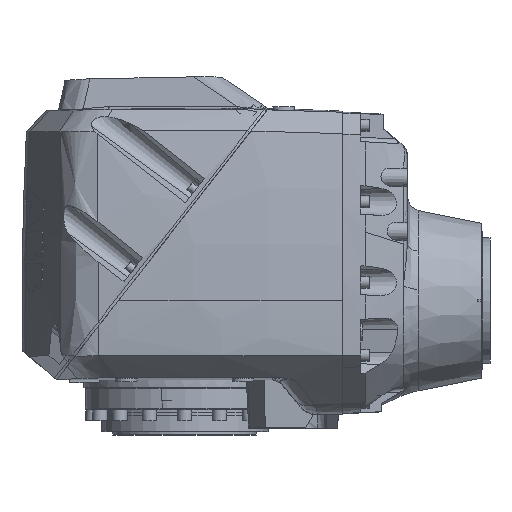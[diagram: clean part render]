
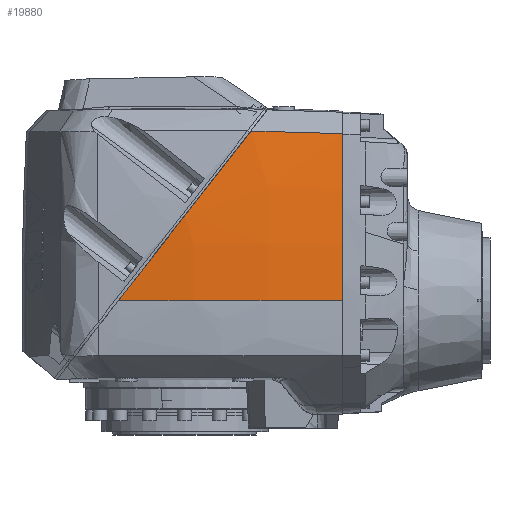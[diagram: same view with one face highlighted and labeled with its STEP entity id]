
A CAD part, top view. The second image highlights one B-rep face of the part: STEP entity #19880.
In plain terms, the highlighted toroidal (fillet/blend) face has major radius 300 mm and minor radius 1500 mm.
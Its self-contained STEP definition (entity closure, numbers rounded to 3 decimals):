
#389 = CARTESIAN_POINT ( 'NONE',  ( 101.397, 0., 1920.193 ) ) ;
#395 = CARTESIAN_POINT ( 'NONE',  ( 248.86, 188.744, 1905.221 ) ) ;
#457 = CARTESIAN_POINT ( 'NONE',  ( 351., 185.804, 1897.04 ) ) ;
#474 = CARTESIAN_POINT ( 'NONE',  ( 351., 0., 1911.639 ) ) ;
#12464 = FACE_OUTER_BOUND ( 'NONE', #23231, .T. ) ;
#12468 = TOROIDAL_SURFACE ( 'NONE', #26426, -300., 1500. ) ;
#15520 = DIRECTION ( 'NONE',  ( 1., 0., 0. ) ) ;
#15544 = CARTESIAN_POINT ( 'NONE',  ( 175., 0., 722. ) ) ;
#15546 = DIRECTION ( 'NONE',  ( 0., 1., 0. ) ) ;
#16026 = B_SPLINE_CURVE_WITH_KNOTS ( 'NONE', 3,
 ( #36944, #36954, #36955, #36957, #36959, #36961 ),
 .UNSPECIFIED., .F., .F.,
 ( 4, 2, 4 ),
 ( 0., 0.12, 0.24 ),
 .UNSPECIFIED. ) ;
#16079 = B_SPLINE_CURVE_WITH_KNOTS ( 'NONE', 3,
 ( #37988, #37991, #37992, #37993 ),
 .UNSPECIFIED., .F., .F.,
 ( 4, 4 ),
 ( 0.013, 0.346 ),
 .UNSPECIFIED. ) ;
#17050 = VERTEX_POINT ( 'NONE', #389 ) ;
#17054 = VERTEX_POINT ( 'NONE', #395 ) ;
#17092 = VERTEX_POINT ( 'NONE', #457 ) ;
#17103 = VERTEX_POINT ( 'NONE', #474 ) ;
#19880 = ADVANCED_FACE ( 'NONE', ( #12464 ), #12468, .T. ) ;
#23231 = EDGE_LOOP ( 'NONE', ( #40423, #40426, #40428, #40430 ) ) ;
#26426 = AXIS2_PLACEMENT_3D ( 'NONE', #15544, #15520, #15546 ) ;
#26948 = AXIS2_PLACEMENT_3D ( 'NONE', #37946, #37947, #37948 ) ;
#26952 = AXIS2_PLACEMENT_3D ( 'NONE', #37994, #37995, #37996 ) ;
#28761 = CIRCLE ( 'NONE', #26948, 1500. ) ;
#28768 = CIRCLE ( 'NONE', #26952, 1189.639 ) ;
#36532 = EDGE_CURVE ( 'NONE', #17050, #17054, #16026, .T. ) ;
#36632 = EDGE_CURVE ( 'NONE', #17050, #17103, #28761, .T. ) ;
#36642 = EDGE_CURVE ( 'NONE', #17092, #17054, #16079, .T. ) ;
#36643 = EDGE_CURVE ( 'NONE', #17092, #17103, #28768, .T. ) ;
#36944 = CARTESIAN_POINT ( 'NONE',  ( 101.397, 0., 1920.193 ) ) ;
#36954 = CARTESIAN_POINT ( 'NONE',  ( 126.117, 31.64, 1921.408 ) ) ;
#36955 = CARTESIAN_POINT ( 'NONE',  ( 150.765, 63.189, 1920.756 ) ) ;
#36957 = CARTESIAN_POINT ( 'NONE',  ( 199.92, 126.104, 1915.767 ) ) ;
#36959 = CARTESIAN_POINT ( 'NONE',  ( 224.426, 157.47, 1911.43 ) ) ;
#36961 = CARTESIAN_POINT ( 'NONE',  ( 248.86, 188.744, 1905.221 ) ) ;
#37946 = CARTESIAN_POINT ( 'NONE',  ( 175., 0., 422. ) ) ;
#37947 = DIRECTION ( 'NONE',  ( 0., 1., 0. ) ) ;
#37948 = DIRECTION ( 'NONE',  ( -1., 0., 0. ) ) ;
#37988 = CARTESIAN_POINT ( 'NONE',  ( 351., 185.804, 1897.04 ) ) ;
#37991 = CARTESIAN_POINT ( 'NONE',  ( 317.233, 187.178, 1900.861 ) ) ;
#37992 = CARTESIAN_POINT ( 'NONE',  ( 283.161, 188.163, 1903.601 ) ) ;
#37993 = CARTESIAN_POINT ( 'NONE',  ( 248.86, 188.744, 1905.221 ) ) ;
#37994 = CARTESIAN_POINT ( 'NONE',  ( 351., 0., 722. ) ) ;
#37995 = DIRECTION ( 'NONE',  ( 1., 0., 0. ) ) ;
#37996 = DIRECTION ( 'NONE',  ( 0., 1., 0. ) ) ;
#40423 = ORIENTED_EDGE ( 'NONE', *, *, #36532, .F. ) ;
#40426 = ORIENTED_EDGE ( 'NONE', *, *, #36632, .T. ) ;
#40428 = ORIENTED_EDGE ( 'NONE', *, *, #36643, .F. ) ;
#40430 = ORIENTED_EDGE ( 'NONE', *, *, #36642, .T. ) ;
